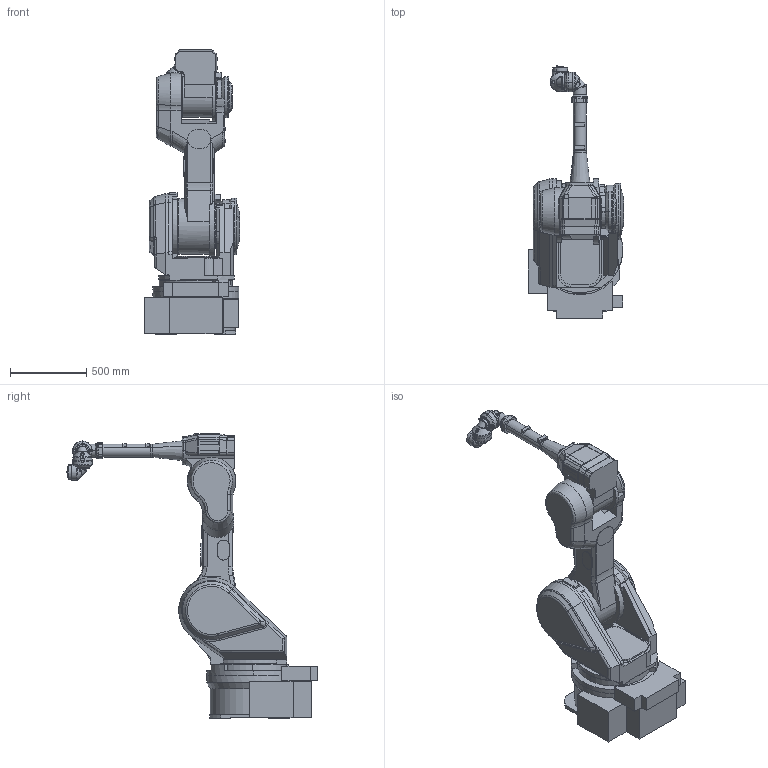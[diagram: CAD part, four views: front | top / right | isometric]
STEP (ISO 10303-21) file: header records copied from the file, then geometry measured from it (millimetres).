
FILE_DESCRIPTION(('CATIA V5 STEP Exchange'),'2;1');
FILE_NAME('C:\Users\RBUSERS\Desktop\KF\KF192_CATIA-ASSY.stp','2014-11-12T08:48:48+00:00',('none'),('none'),'Version 5-6 Release 2012','CATIA V5 STEP AP203','none');
FILE_SCHEMA(('CONFIG_CONTROL_DESIGN'));
Length unit declared in the file: millimetre
Products named in the file (1): KF192_CATIA-ASSY
Assembly tree (7 placements, depth 2):
  KF192_CATIA-ASSY
    #57
    #2462
    #8616
    #15844
    #30762
    #35854
    #40264
Bounding box: 629 x 1655.1 x 1873 mm (x, y, z)
Surface area: 6243035.1 mm2 (no closed solid volume)
Topology: 0 solids, 8 shells, 926 faces, 2415 edges, 1501 vertices
Faces by surface type: plane 415, cylinder 240, bspline 149, torus 60, cone 32, sphere 27, extrusion 3
Entity records: 40698 total; most frequent: CARTESIAN_POINT 20348, ORIENTED_EDGE 4760, DIRECTION 3091, EDGE_CURVE 2380, VERTEX_POINT 1501, AXIS2_PLACEMENT_3D 1267, VECTOR 1162, LINE 1159
